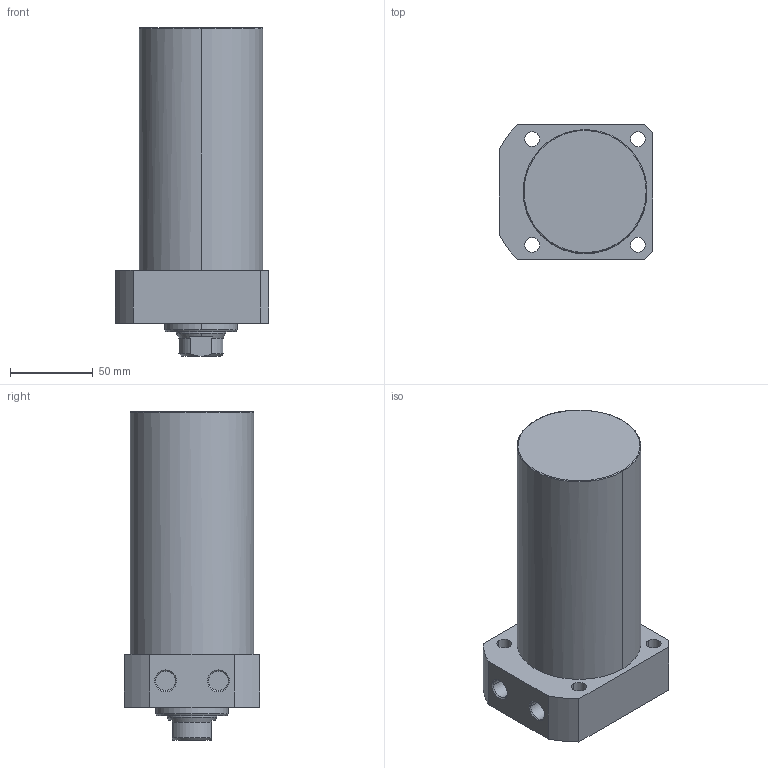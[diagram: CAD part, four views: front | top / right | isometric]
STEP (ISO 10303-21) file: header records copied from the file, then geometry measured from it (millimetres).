
FILE_DESCRIPTION((' '),'2;1');
FILE_NAME( 'TLLR-075CA-110.STEP.stp', '2025-10-24T16:35:06', (' '), ('--- Datakit www.datakit.com---'), ' Datakit CrossCadWare V2024.1 Dec 21 2023', 'Mastercam 2025', ' ');
FILE_SCHEMA(('AUTOMOTIVE_DESIGN { 1 0 10303 214 1 1 1 1 }'));
Length unit declared in the file: millimetre
Products named in the file (1): TLLR-075CA-110
Bounding box: 93 x 82 x 199 mm (x, y, z)
Volume: 884526.3 mm3; surface area: 68297.3 mm2
Topology: 1 solids, 1 shells, 63 faces, 177 edges, 122 vertices
Faces by surface type: cylinder 28, plane 19, cone 14, torus 2
Entity records: 2168 total; most frequent: CARTESIAN_POINT 405, DIRECTION 400, ORIENTED_EDGE 350, EDGE_CURVE 175, AXIS2_PLACEMENT_3D 169, VERTEX_POINT 122, CIRCLE 105, EDGE_LOOP 79
